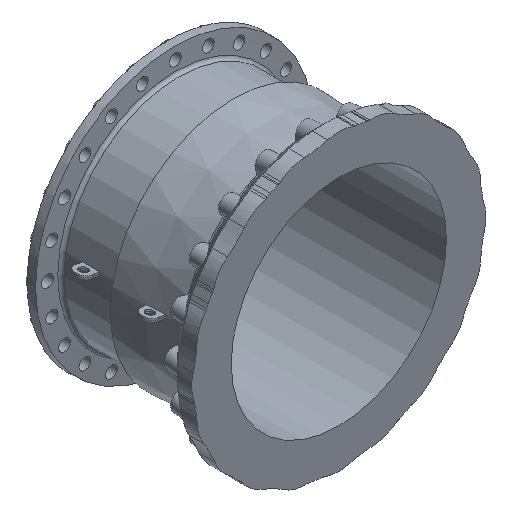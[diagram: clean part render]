
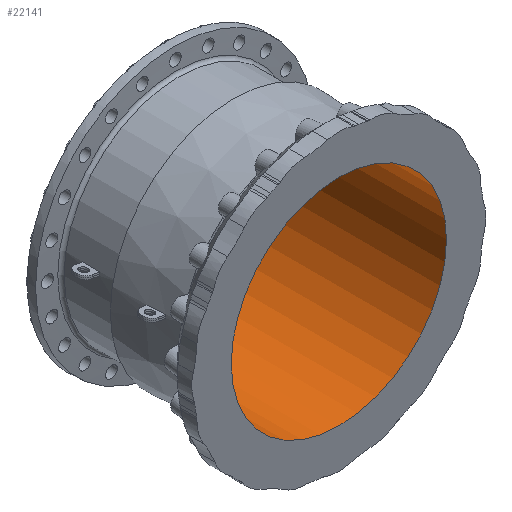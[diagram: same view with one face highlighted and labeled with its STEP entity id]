
A CAD part, isometric view. The second image highlights one B-rep face of the part: STEP entity #22141.
In plain terms, the highlighted cylindrical face has radius 400 mm (diameter 800 mm), a full revolution.
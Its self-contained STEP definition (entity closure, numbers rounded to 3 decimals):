
#314 = AXIS2_PLACEMENT_3D ( 'NONE', #11092, #9224, #20916 ) ;
#1554 = CYLINDRICAL_SURFACE ( 'NONE', #314, 400. ) ;
#3906 = FACE_OUTER_BOUND ( 'NONE', #4747, .T. ) ;
#4239 = CARTESIAN_POINT ( 'NONE',  ( 0., -18.887, 0. ) ) ;
#4484 = ORIENTED_EDGE ( 'NONE', *, *, #30456, .T. ) ;
#4747 = EDGE_LOOP ( 'NONE', ( #4484 ) ) ;
#5262 = DIRECTION ( 'NONE',  ( 0., 1., 0. ) ) ;
#8683 = AXIS2_PLACEMENT_3D ( 'NONE', #26652, #5262, #21964 ) ;
#9224 = DIRECTION ( 'NONE',  ( 0., 1., 0. ) ) ;
#11092 = CARTESIAN_POINT ( 'NONE',  ( 0., -2.134, 0. ) ) ;
#12575 = CARTESIAN_POINT ( 'NONE',  ( 0., 630.923, -400. ) ) ;
#13227 = EDGE_LOOP ( 'NONE', ( #22680 ) ) ;
#13454 = FACE_OUTER_BOUND ( 'NONE', #13227, .T. ) ;
#13627 = DIRECTION ( 'NONE',  ( 1., 0., 0. ) ) ;
#14642 = AXIS2_PLACEMENT_3D ( 'NONE', #4239, #17832, #13627 ) ;
#15814 = EDGE_CURVE ( 'NONE', #22071, #22071, #27595, .T. ) ;
#17832 = DIRECTION ( 'NONE',  ( 0., -1., 0. ) ) ;
#19734 = CARTESIAN_POINT ( 'NONE',  ( 400., -18.887, 0. ) ) ;
#20916 = DIRECTION ( 'NONE',  ( 0., 0., -1. ) ) ;
#21964 = DIRECTION ( 'NONE',  ( 0., 0., -1. ) ) ;
#22071 = VERTEX_POINT ( 'NONE', #19734 ) ;
#22128 = CIRCLE ( 'NONE', #8683, 400. ) ;
#22141 = ADVANCED_FACE ( 'NONE', ( #3906, #13454 ), #1554, .F. ) ;
#22680 = ORIENTED_EDGE ( 'NONE', *, *, #15814, .T. ) ;
#24425 = VERTEX_POINT ( 'NONE', #12575 ) ;
#26652 = CARTESIAN_POINT ( 'NONE',  ( 0., 630.923, 0. ) ) ;
#27595 = CIRCLE ( 'NONE', #14642, 400. ) ;
#30456 = EDGE_CURVE ( 'NONE', #24425, #24425, #22128, .T. ) ;
